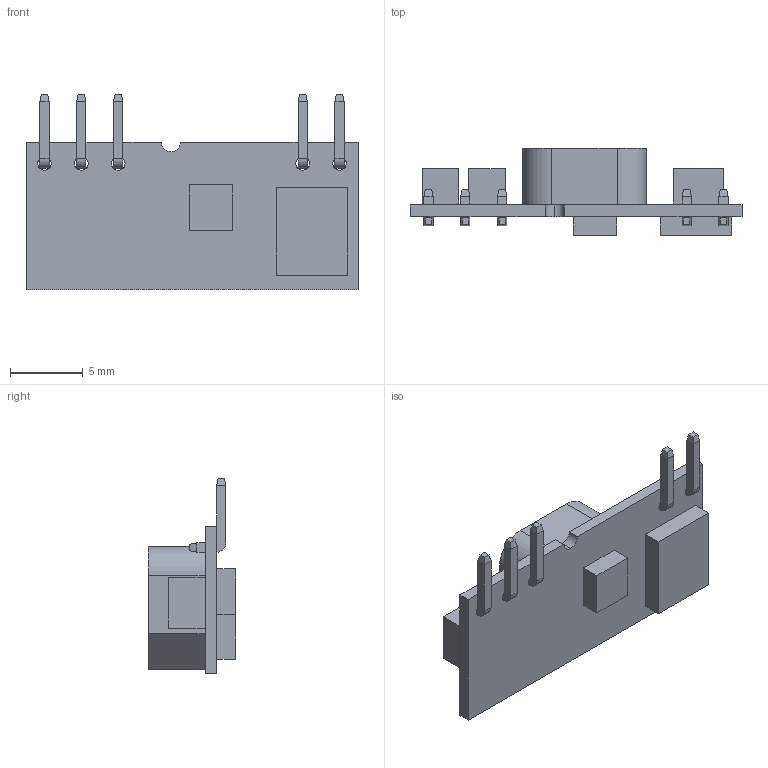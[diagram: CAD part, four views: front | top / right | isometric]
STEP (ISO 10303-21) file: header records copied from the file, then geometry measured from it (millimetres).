
FILE_DESCRIPTION (( 'STEP AP214' ), '1' );
FILE_NAME ('TOS 06-12SIL.STEP', '2018-10-30T08:22:11', ( 'user' ), ( '' ), 'SwSTEP 2.0', 'SolidWorks 2016', '' );
FILE_SCHEMA (( 'AUTOMOTIVE_DESIGN' ));
Length unit declared in the file: millimetre
Products named in the file (1): TOS 06-12SIL
Bounding box: 22.86 x 6 x 13.46 mm (x, y, z)
Volume: 572.7 mm3; surface area: 853.9 mm2
Topology: 1 solids, 1 shells, 143 faces, 360 edges, 220 vertices
Faces by surface type: plane 123, cylinder 20
Entity records: 5417 total; most frequent: CARTESIAN_POINT 724, ORIENTED_EDGE 720, DIRECTION 698, EDGE_CURVE 360, VECTOR 310, LINE 310, VERTEX_POINT 220, AXIS2_PLACEMENT_3D 194
